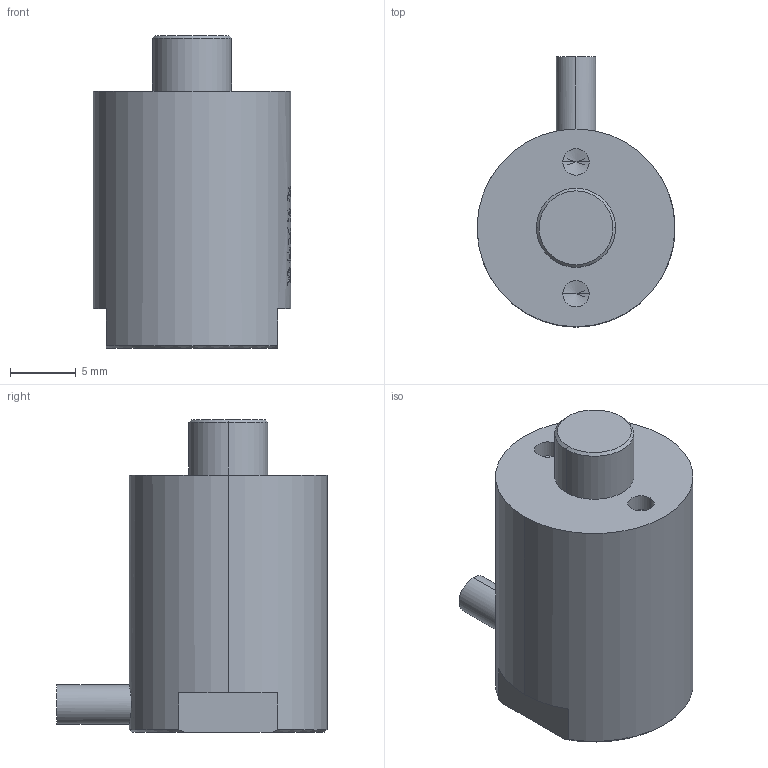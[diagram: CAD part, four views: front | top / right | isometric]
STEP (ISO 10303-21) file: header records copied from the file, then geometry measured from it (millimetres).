
FILE_DESCRIPTION (( 'STEP AP203' ), '1' );
FILE_NAME ('7VS15ƽͷ.STEP', '2024-11-30T02:57:17', ( 'daohangxitong.com' ), ( 'daohangxitong.com' ), 'SwSTEP 2.0', 'SolidWorks 2016', '' );
FILE_SCHEMA (( 'CONFIG_CONTROL_DESIGN' ));
Length unit declared in the file: millimetre
Products named in the file (1): 7VS15ƽͷ
Bounding box: 15 x 20.5 x 23.7 mm (x, y, z)
Volume: 3517.4 mm3; surface area: 1465.9 mm2
Topology: 1 solids, 1 shells, 683 faces, 1961 edges, 1301 vertices
Faces by surface type: bspline 602, cylinder 39, plane 30, cone 12
Entity records: 36808 total; most frequent: CARTESIAN_POINT 24284, ORIENTED_EDGE 3910, EDGE_CURVE 1955, B_SPLINE_CURVE_WITH_KNOTS 1844, VERTEX_POINT 1301, EDGE_LOOP 710, ADVANCED_FACE 683, FACE_OUTER_BOUND 683
